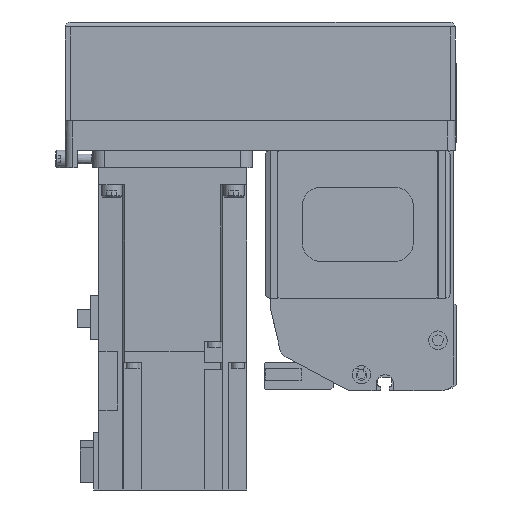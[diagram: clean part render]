
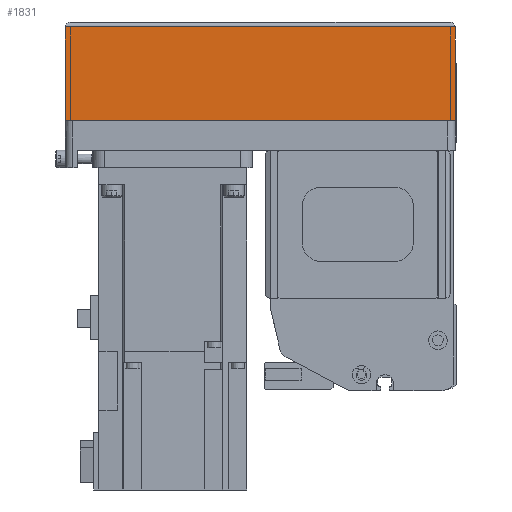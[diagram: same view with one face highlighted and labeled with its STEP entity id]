
A CAD part, left-side view. The second image highlights one B-rep face of the part: STEP entity #1831.
In plain terms, the highlighted planar face has unit normal (-1, 0, 0) as drawn and (0, 1, 0) by its records, which use the part's own axes.
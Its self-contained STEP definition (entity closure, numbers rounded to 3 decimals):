
#1831 = ADVANCED_FACE( '', ( #4454 ), #4455, .T. );
#4454 = FACE_OUTER_BOUND( '', #8071, .T. );
#4455 = PLANE( '', #8072 );
#8071 = EDGE_LOOP( '', ( #13331, #13332, #13333, #13334 ) );
#8072 = AXIS2_PLACEMENT_3D( '', #13335, #13336, #13337 );
#13331 = ORIENTED_EDGE( '', *, *, #20593, .F. );
#13332 = ORIENTED_EDGE( '', *, *, #21707, .F. );
#13333 = ORIENTED_EDGE( '', *, *, #21708, .T. );
#13334 = ORIENTED_EDGE( '', *, *, #21709, .T. );
#13335 = CARTESIAN_POINT( '', ( -158., 39., -50. ) );
#13336 = DIRECTION( '', ( 0., 1., 0. ) );
#13337 = DIRECTION( '', ( 0., 0., 1. ) );
#20593 = EDGE_CURVE( '', #24599, #24600, #24601, .T. );
#21707 = EDGE_CURVE( '', #26471, #24599, #26472, .T. );
#21708 = EDGE_CURVE( '', #26471, #26473, #26474, .T. );
#21709 = EDGE_CURVE( '', #26473, #24600, #26475, .T. );
#24599 = VERTEX_POINT( '', #30498 );
#24600 = VERTEX_POINT( '', #30499 );
#24601 = LINE( '', #30500, #30501 );
#26471 = VERTEX_POINT( '', #33504 );
#26472 = LINE( '', #33505, #33506 );
#26473 = VERTEX_POINT( '', #33507 );
#26474 = LINE( '', #33508, #33509 );
#26475 = LINE( '', #33510, #33511 );
#30498 = CARTESIAN_POINT( '', ( 0., 39., -50. ) );
#30499 = CARTESIAN_POINT( '', ( 0., 39., -12.1 ) );
#30500 = CARTESIAN_POINT( '', ( 0., 39., -50. ) );
#30501 = VECTOR( '', #38387, 1000. );
#33504 = CARTESIAN_POINT( '', ( -158., 39., -50. ) );
#33505 = CARTESIAN_POINT( '', ( -158., 39., -50. ) );
#33506 = VECTOR( '', #39866, 1000. );
#33507 = CARTESIAN_POINT( '', ( -158., 39., -12.1 ) );
#33508 = CARTESIAN_POINT( '', ( -158., 39., -50. ) );
#33509 = VECTOR( '', #39867, 1000. );
#33510 = CARTESIAN_POINT( '', ( -158., 39., -12.1 ) );
#33511 = VECTOR( '', #39868, 1000. );
#38387 = DIRECTION( '', ( 0., 0., 1. ) );
#39866 = DIRECTION( '', ( 1., 0., 0. ) );
#39867 = DIRECTION( '', ( 0., 0., 1. ) );
#39868 = DIRECTION( '', ( 1., 0., 0. ) );
